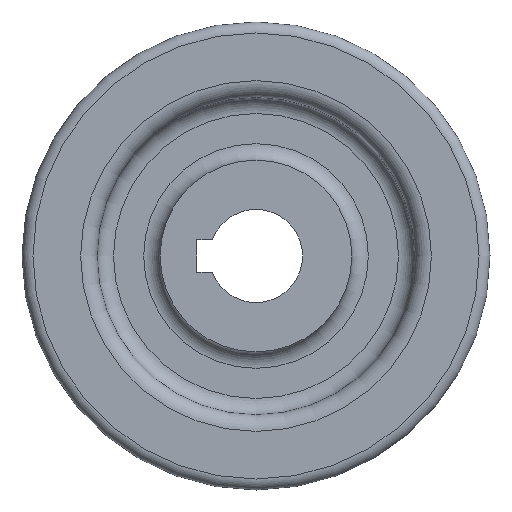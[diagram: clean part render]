
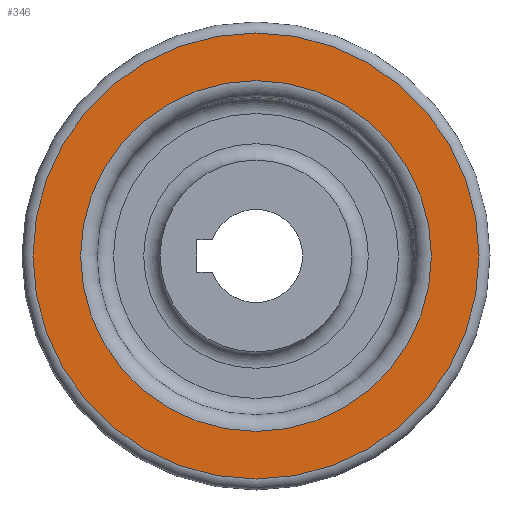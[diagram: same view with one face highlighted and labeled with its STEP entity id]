
A CAD part, left-side view. The second image highlights one B-rep face of the part: STEP entity #346.
In plain terms, the highlighted planar face has unit normal (-1, 0, 0).
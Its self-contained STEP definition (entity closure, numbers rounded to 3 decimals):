
#34=FACE_BOUND($,#129,.T.);
#35=FACE_BOUND($,#130,.T.);
#62=CIRCLE($,#385,32.);
#63=CIRCLE($,#387,40.7);
#129=EDGE_LOOP($,(#286));
#130=EDGE_LOOP($,(#287));
#200=VERTEX_POINT($,#586);
#201=VERTEX_POINT($,#589);
#236=EDGE_CURVE($,#200,#200,#62,.T.);
#237=EDGE_CURVE($,#201,#201,#63,.T.);
#286=ORIENTED_EDGE($,*,*,#236,.T.);
#287=ORIENTED_EDGE($,*,*,#237,.F.);
#332=PLANE($,#386);
#346=ADVANCED_FACE($,(#34,#35),#332,.T.);
#385=AXIS2_PLACEMENT_3D($,#587,#469,#470);
#386=AXIS2_PLACEMENT_3D($,#588,#471,#472);
#387=AXIS2_PLACEMENT_3D($,#590,#473,#474);
#469=DIRECTION('center_axis',(1.,0.,0.));
#470=DIRECTION('ref_axis',(0.,0.,-1.));
#471=DIRECTION('center_axis',(-1.,0.,0.));
#472=DIRECTION('ref_axis',(0.,0.,1.));
#473=DIRECTION('center_axis',(1.,0.,0.));
#474=DIRECTION('ref_axis',(0.,0.,-1.));
#586=CARTESIAN_POINT('',(-9.5,32.,0.));
#587=CARTESIAN_POINT('Origin',(-9.5,0.,0.));
#588=CARTESIAN_POINT('Origin',(-9.5,40.7,0.));
#589=CARTESIAN_POINT('',(-9.5,40.7,0.));
#590=CARTESIAN_POINT('Origin',(-9.5,0.,0.));
